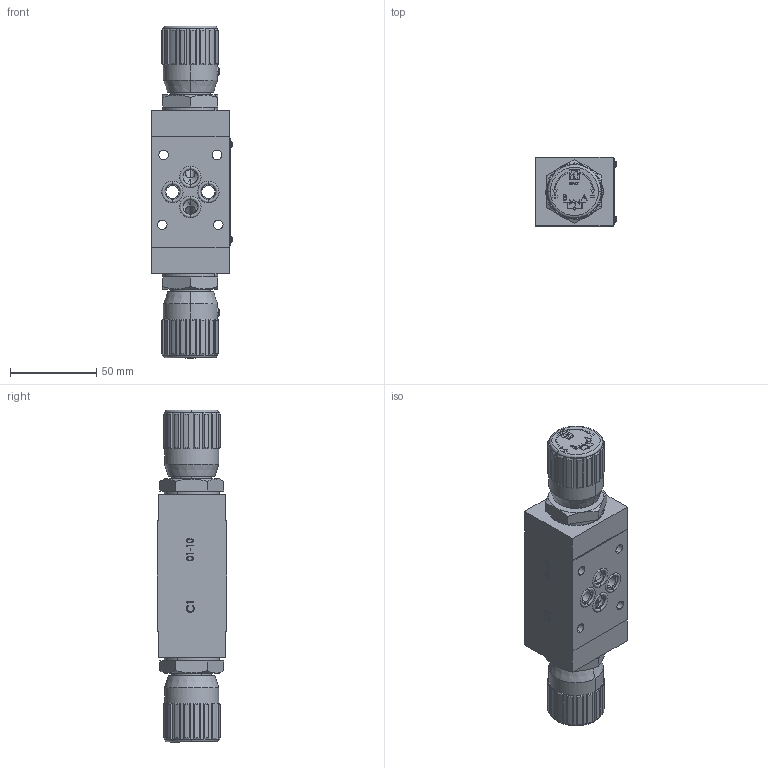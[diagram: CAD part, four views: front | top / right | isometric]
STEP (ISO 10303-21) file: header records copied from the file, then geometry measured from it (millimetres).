
FILE_DESCRIPTION (( 'STEP AP214' ), '1' );
FILE_NAME ('FT357-5-AB-03.STEP', '2014-06-17T05:13:28', ( '' ), ( '' ), 'SwSTEP 2.0', 'SolidWorks 2014', '' );
FILE_SCHEMA (( 'AUTOMOTIVE_DESIGN' ));
Length unit declared in the file: millimetre
Products named in the file (21): 357-5-AB001000; GranoFT257_5-38; DiscoFascetta257_5-38; FT357-5-AB-03; OR2037; OR2068; OR132; ViteM3_Semplice; CappuccioFT257-5_38_Tipo38; VolantinoFT257-5_38_Tipo38; AnelloFermoFT1251_2-01-12; BK2018; OR2018; 267-5-018000-38; 267-5-017000-38; 267-5-008001-38; 267-5-002001-38; 257-6-009000-38; 357-5-AB101000; RivettoTarga; 357-5-AB015000
Assembly tree (42 placements, depth 2):
  FT357-5-AB-03
    357-5-AB001000
    357-5-AB015000
    RivettoTarga  x4
    357-5-AB101000  x2
    257-6-009000-38  x2
    267-5-002001-38  x2
    267-5-008001-38  x2
    267-5-017000-38  x2
    267-5-018000-38  x2
    OR2018  x2
    BK2018  x2
    AnelloFermoFT1251_2-01-12  x2
    VolantinoFT257-5_38_Tipo38  x2
    CappuccioFT257-5_38_Tipo38  x2
    ViteM3_Semplice  x2
    OR132  x2
    OR2068  x2
    OR2037  x4
    DiscoFascetta257_5-38  x2
    GranoFT257_5-38  x2
Bounding box: 46.96 x 40.38 x 192.6 mm (x, y, z)
Volume: 216094 mm3; surface area: 95386.6 mm2
Topology: 42 solids, 42 shells, 3010 faces, 7605 edges, 4906 vertices
Faces by surface type: plane 1619, cylinder 532, bspline 397, cone 366, torus 92, sphere 4
Entity records: 107286 total; most frequent: CARTESIAN_POINT 39171, ORIENTED_EDGE 11300, DIRECTION 9296, EDGE_CURVE 5650, LINE 3798, VECTOR 3798, VERTEX_POINT 3690, AXIS2_PLACEMENT_3D 2749
